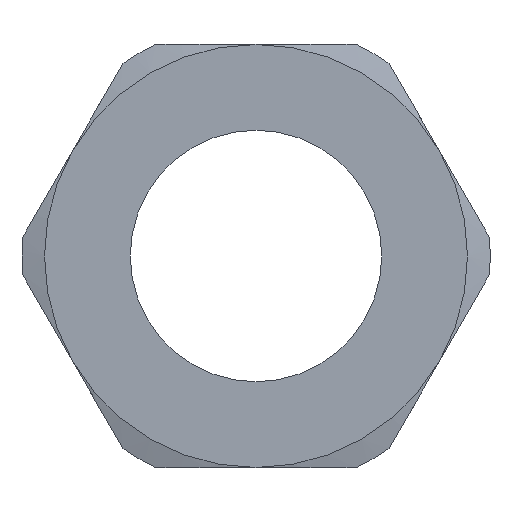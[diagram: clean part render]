
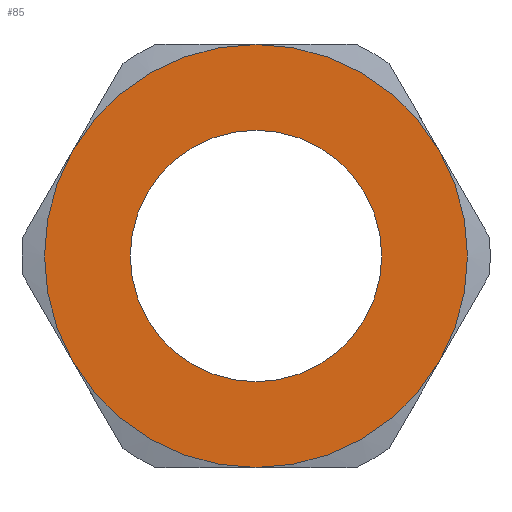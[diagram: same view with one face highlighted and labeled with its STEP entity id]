
A CAD part, left-side view. The second image highlights one B-rep face of the part: STEP entity #85.
In plain terms, the highlighted planar face has unit normal (-1, 0, 0).
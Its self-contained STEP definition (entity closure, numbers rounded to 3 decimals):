
#85 = ADVANCED_FACE( '', ( #123, #124 ), #125, .F. );
#123 = FACE_OUTER_BOUND( '', #180, .T. );
#124 = FACE_BOUND( '', #181, .T. );
#125 = PLANE( '', #182 );
#180 = EDGE_LOOP( '', ( #297, #298, #299, #300, #301, #302 ) );
#181 = EDGE_LOOP( '', ( #303 ) );
#182 = AXIS2_PLACEMENT_3D( '', #304, #305, #306 );
#297 = ORIENTED_EDGE( '', *, *, #459, .F. );
#298 = ORIENTED_EDGE( '', *, *, #461, .F. );
#299 = ORIENTED_EDGE( '', *, *, #462, .F. );
#300 = ORIENTED_EDGE( '', *, *, #463, .F. );
#301 = ORIENTED_EDGE( '', *, *, #455, .F. );
#302 = ORIENTED_EDGE( '', *, *, #457, .F. );
#303 = ORIENTED_EDGE( '', *, *, #464, .T. );
#304 = CARTESIAN_POINT( '', ( 0., 0., 0. ) );
#305 = DIRECTION( '', ( 1., 0., 0. ) );
#306 = DIRECTION( '', ( 0., 0., -1. ) );
#455 = EDGE_CURVE( '', #493, #548, #549, .T. );
#457 = EDGE_CURVE( '', #543, #493, #551, .T. );
#459 = EDGE_CURVE( '', #534, #543, #553, .T. );
#461 = EDGE_CURVE( '', #513, #534, #555, .T. );
#462 = EDGE_CURVE( '', #525, #513, #556, .T. );
#463 = EDGE_CURVE( '', #548, #525, #557, .T. );
#464 = EDGE_CURVE( '', #558, #558, #559, .T. );
#493 = VERTEX_POINT( '', #601 );
#513 = VERTEX_POINT( '', #641 );
#525 = VERTEX_POINT( '', #667 );
#534 = VERTEX_POINT( '', #687 );
#543 = VERTEX_POINT( '', #707 );
#548 = VERTEX_POINT( '', #718 );
#549 = CIRCLE( '', #719, 7.5 );
#551 = CIRCLE( '', #724, 7.5 );
#553 = CIRCLE( '', #726, 7.5 );
#555 = CIRCLE( '', #728, 7.5 );
#556 = CIRCLE( '', #729, 7.5 );
#557 = CIRCLE( '', #730, 7.5 );
#558 = VERTEX_POINT( '', #731 );
#559 = CIRCLE( '', #732, 4.459 );
#601 = CARTESIAN_POINT( '', ( 0., 0., 7.5 ) );
#641 = CARTESIAN_POINT( '', ( 0., 0., -7.5 ) );
#667 = CARTESIAN_POINT( '', ( 0., -6.495, -3.75 ) );
#687 = CARTESIAN_POINT( '', ( 0., 6.495, -3.75 ) );
#707 = CARTESIAN_POINT( '', ( 0., 6.495, 3.75 ) );
#718 = CARTESIAN_POINT( '', ( 0., -6.495, 3.75 ) );
#719 = AXIS2_PLACEMENT_3D( '', #787, #788, #789 );
#724 = AXIS2_PLACEMENT_3D( '', #790, #791, #792 );
#726 = AXIS2_PLACEMENT_3D( '', #796, #797, #798 );
#728 = AXIS2_PLACEMENT_3D( '', #802, #803, #804 );
#729 = AXIS2_PLACEMENT_3D( '', #805, #806, #807 );
#730 = AXIS2_PLACEMENT_3D( '', #808, #809, #810 );
#731 = CARTESIAN_POINT( '', ( 0., 0., -4.459 ) );
#732 = AXIS2_PLACEMENT_3D( '', #811, #812, #813 );
#787 = CARTESIAN_POINT( '', ( 0., 0., 0. ) );
#788 = DIRECTION( '', ( 1., 0., 0. ) );
#789 = DIRECTION( '', ( 0., 0., -1. ) );
#790 = CARTESIAN_POINT( '', ( 0., 0., 0. ) );
#791 = DIRECTION( '', ( 1., 0., 0. ) );
#792 = DIRECTION( '', ( 0., 0., -1. ) );
#796 = CARTESIAN_POINT( '', ( 0., 0., 0. ) );
#797 = DIRECTION( '', ( 1., 0., 0. ) );
#798 = DIRECTION( '', ( 0., 0., -1. ) );
#802 = CARTESIAN_POINT( '', ( 0., 0., 0. ) );
#803 = DIRECTION( '', ( 1., 0., 0. ) );
#804 = DIRECTION( '', ( 0., 0., -1. ) );
#805 = CARTESIAN_POINT( '', ( 0., 0., 0. ) );
#806 = DIRECTION( '', ( 1., 0., 0. ) );
#807 = DIRECTION( '', ( 0., 0., -1. ) );
#808 = CARTESIAN_POINT( '', ( 0., 0., 0. ) );
#809 = DIRECTION( '', ( 1., 0., 0. ) );
#810 = DIRECTION( '', ( 0., 0., -1. ) );
#811 = CARTESIAN_POINT( '', ( 0., 0., 0. ) );
#812 = DIRECTION( '', ( 1., 0., 0. ) );
#813 = DIRECTION( '', ( 0., 0., -1. ) );
